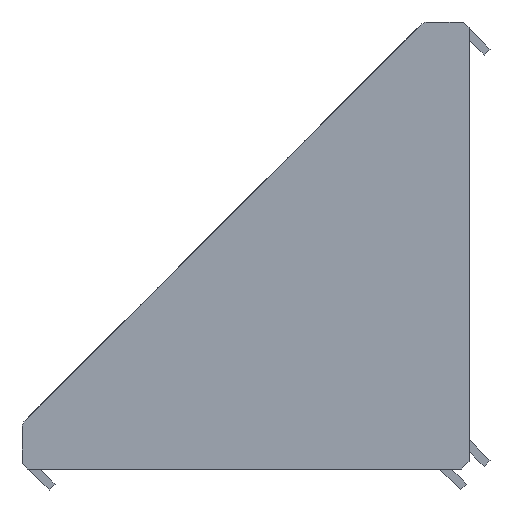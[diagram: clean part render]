
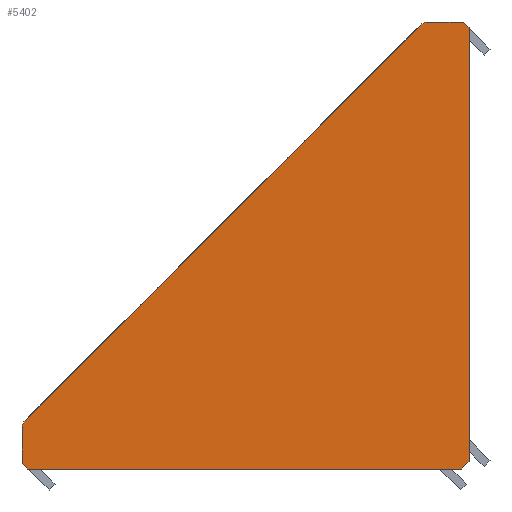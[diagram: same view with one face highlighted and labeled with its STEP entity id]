
A CAD part, left-side view. The second image highlights one B-rep face of the part: STEP entity #5402.
In plain terms, the highlighted planar face has unit normal (-1, 0, 0).
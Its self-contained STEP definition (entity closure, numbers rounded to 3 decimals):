
#73 = CARTESIAN_POINT ( 'NONE',  ( -44., 0., 84.853 ) ) ;
#150 = EDGE_CURVE ( 'NONE', #5123, #4305, #7630, .T. ) ;
#164 = LINE ( 'NONE', #4421, #11548 ) ;
#704 = DIRECTION ( 'NONE',  ( 0., 0.707, 0.707 ) ) ;
#792 = CARTESIAN_POINT ( 'NONE',  ( -44., 0., 0. ) ) ;
#839 = EDGE_CURVE ( 'NONE', #5560, #7142, #11331, .T. ) ;
#1360 = DIRECTION ( 'NONE',  ( 0., 0.707, -0.707 ) ) ;
#1456 = CARTESIAN_POINT ( 'NONE',  ( -44., 86., 0. ) ) ;
#1570 = DIRECTION ( 'NONE',  ( 0., 0., -1. ) ) ;
#1630 = CARTESIAN_POINT ( 'NONE',  ( -44., 85.414, 9.338 ) ) ;
#1636 = VERTEX_POINT ( 'NONE', #3004 ) ;
#1695 = CARTESIAN_POINT ( 'NONE',  ( -44., 7.924, 84. ) ) ;
#1783 = ORIENTED_EDGE ( 'NONE', *, *, #4323, .F. ) ;
#1923 = CARTESIAN_POINT ( 'NONE',  ( -44., 86., 1.147 ) ) ;
#2117 = CARTESIAN_POINT ( 'NONE',  ( -44., 84.853, 0. ) ) ;
#2383 = ORIENTED_EDGE ( 'NONE', *, *, #11032, .F. ) ;
#3004 = CARTESIAN_POINT ( 'NONE',  ( -44., 1.414, 0. ) ) ;
#3143 = CIRCLE ( 'NONE', #6615, 2. ) ;
#3166 = VERTEX_POINT ( 'NONE', #7203 ) ;
#3202 = EDGE_CURVE ( 'NONE', #5573, #4163, #164, .T. ) ;
#3295 = ORIENTED_EDGE ( 'NONE', *, *, #4272, .F. ) ;
#3695 = FACE_OUTER_BOUND ( 'NONE', #4309, .T. ) ;
#3997 = VECTOR ( 'NONE', #704, 1000. ) ;
#4050 = VECTOR ( 'NONE', #4100, 1000. ) ;
#4100 = DIRECTION ( 'NONE',  ( 0., -1., 0. ) ) ;
#4145 = ORIENTED_EDGE ( 'NONE', *, *, #150, .F. ) ;
#4163 = VERTEX_POINT ( 'NONE', #10414 ) ;
#4237 = CIRCLE ( 'NONE', #8054, 2. ) ;
#4272 = EDGE_CURVE ( 'NONE', #9451, #5123, #11418, .T. ) ;
#4305 = VERTEX_POINT ( 'NONE', #11465 ) ;
#4309 = EDGE_LOOP ( 'NONE', ( #7125, #6676, #8114, #1783, #10917, #4145, #3295, #2383, #4779, #5696 ) ) ;
#4323 = EDGE_CURVE ( 'NONE', #4765, #3166, #5705, .T. ) ;
#4421 = CARTESIAN_POINT ( 'NONE',  ( -44., 0., 84.853 ) ) ;
#4765 = VERTEX_POINT ( 'NONE', #9622 ) ;
#4779 = ORIENTED_EDGE ( 'NONE', *, *, #5268, .F. ) ;
#4869 = LINE ( 'NONE', #10027, #10193 ) ;
#5123 = VERTEX_POINT ( 'NONE', #1923 ) ;
#5268 = EDGE_CURVE ( 'NONE', #4163, #1636, #10988, .T. ) ;
#5298 = DIRECTION ( 'NONE',  ( 0., -0.707, 0.707 ) ) ;
#5402 = ADVANCED_FACE ( 'NONE', ( #3695 ), #7172, .F. ) ;
#5560 = VERTEX_POINT ( 'NONE', #7322 ) ;
#5573 = VERTEX_POINT ( 'NONE', #73 ) ;
#5696 = ORIENTED_EDGE ( 'NONE', *, *, #3202, .F. ) ;
#5705 = LINE ( 'NONE', #1630, #7797 ) ;
#5938 = EDGE_CURVE ( 'NONE', #7142, #5573, #10002, .T. ) ;
#6050 = EDGE_CURVE ( 'NONE', #3166, #5560, #4237, .T. ) ;
#6222 = DIRECTION ( 'NONE',  ( 1., 0., 0. ) ) ;
#6225 = DIRECTION ( 'NONE',  ( 0., 0., -1. ) ) ;
#6615 = AXIS2_PLACEMENT_3D ( 'NONE', #7982, #10709, #7113 ) ;
#6676 = ORIENTED_EDGE ( 'NONE', *, *, #839, .F. ) ;
#6754 = CARTESIAN_POINT ( 'NONE',  ( -44., 0., 1.414 ) ) ;
#6773 = DIRECTION ( 'NONE',  ( 0., -0.707, -0.707 ) ) ;
#7113 = DIRECTION ( 'NONE',  ( 0., 0., -1. ) ) ;
#7125 = ORIENTED_EDGE ( 'NONE', *, *, #5938, .F. ) ;
#7142 = VERTEX_POINT ( 'NONE', #11509 ) ;
#7172 = PLANE ( 'NONE',  #11345 ) ;
#7203 = CARTESIAN_POINT ( 'NONE',  ( -44., 9.338, 85.414 ) ) ;
#7322 = CARTESIAN_POINT ( 'NONE',  ( -44., 7.924, 86. ) ) ;
#7403 = DIRECTION ( 'NONE',  ( 0., 1., 0. ) ) ;
#7514 = DIRECTION ( 'NONE',  ( 0., 0., 1. ) ) ;
#7630 = LINE ( 'NONE', #1456, #10417 ) ;
#7797 = VECTOR ( 'NONE', #5298, 1000. ) ;
#7982 = CARTESIAN_POINT ( 'NONE',  ( -44., 84., 7.924 ) ) ;
#7986 = DIRECTION ( 'NONE',  ( 1., 0., 0. ) ) ;
#8054 = AXIS2_PLACEMENT_3D ( 'NONE', #1695, #7986, #1570 ) ;
#8114 = ORIENTED_EDGE ( 'NONE', *, *, #6050, .F. ) ;
#8179 = VECTOR ( 'NONE', #6773, 1000. ) ;
#9451 = VERTEX_POINT ( 'NONE', #2117 ) ;
#9522 = CARTESIAN_POINT ( 'NONE',  ( -44., 0., 86. ) ) ;
#9622 = CARTESIAN_POINT ( 'NONE',  ( -44., 85.414, 9.338 ) ) ;
#9796 = CARTESIAN_POINT ( 'NONE',  ( -44., 84.853, 0. ) ) ;
#9871 = DIRECTION ( 'NONE',  ( 0., 0., -1. ) ) ;
#10002 = LINE ( 'NONE', #11306, #8179 ) ;
#10016 = VECTOR ( 'NONE', #1360, 1000. ) ;
#10027 = CARTESIAN_POINT ( 'NONE',  ( -44., 0., 0. ) ) ;
#10193 = VECTOR ( 'NONE', #7403, 1000. ) ;
#10414 = CARTESIAN_POINT ( 'NONE',  ( -44., 0., 1.414 ) ) ;
#10417 = VECTOR ( 'NONE', #7514, 1000. ) ;
#10709 = DIRECTION ( 'NONE',  ( 1., 0., 0. ) ) ;
#10917 = ORIENTED_EDGE ( 'NONE', *, *, #11649, .F. ) ;
#10988 = LINE ( 'NONE', #6754, #10016 ) ;
#11032 = EDGE_CURVE ( 'NONE', #1636, #9451, #4869, .T. ) ;
#11306 = CARTESIAN_POINT ( 'NONE',  ( -44., 1.147, 86. ) ) ;
#11331 = LINE ( 'NONE', #9522, #4050 ) ;
#11345 = AXIS2_PLACEMENT_3D ( 'NONE', #792, #6222, #9871 ) ;
#11418 = LINE ( 'NONE', #9796, #3997 ) ;
#11465 = CARTESIAN_POINT ( 'NONE',  ( -44., 86., 7.924 ) ) ;
#11509 = CARTESIAN_POINT ( 'NONE',  ( -44., 1.147, 86. ) ) ;
#11548 = VECTOR ( 'NONE', #6225, 1000. ) ;
#11649 = EDGE_CURVE ( 'NONE', #4305, #4765, #3143, .T. ) ;
